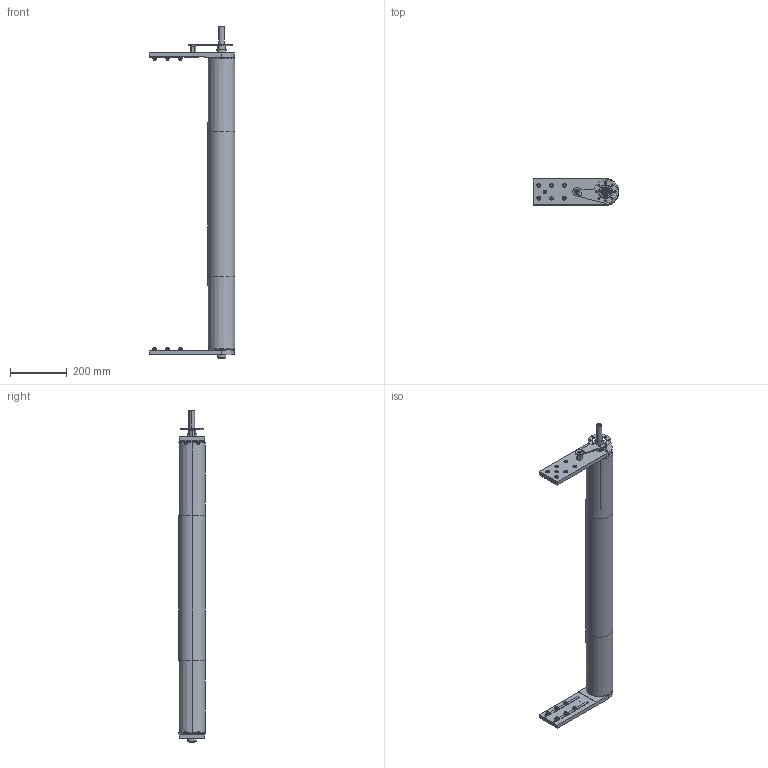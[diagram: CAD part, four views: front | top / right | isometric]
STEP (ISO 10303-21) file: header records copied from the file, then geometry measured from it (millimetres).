
FILE_DESCRIPTION (( 'STEP AP203' ), '1' );
FILE_NAME ('084.095.KD.44.1000.STEP', '2014-10-02T09:07:08', ( '' ), ( '' ), 'SwSTEP 2.0', 'SolidWorks 2012', '' );
FILE_SCHEMA (( 'CONFIG_CONTROL_DESIGN' ));
Length unit declared in the file: millimetre
Products named in the file (1): 084.095.KD.44.1000
Bounding box: 302.5 x 95 x 1168.5 mm (x, y, z)
Volume: 2755831.6 mm3; surface area: 1252871.7 mm2
Topology: 43 solids, 44 shells, 1008 faces, 2524 edges, 1644 vertices
Faces by surface type: plane 457, cylinder 339, torus 92, cone 63, bspline 48, sphere 9
Entity records: 31613 total; most frequent: CARTESIAN_POINT 6878, DIRECTION 5286, ORIENTED_EDGE 5004, EDGE_CURVE 2502, AXIS2_PLACEMENT_3D 2033, VERTEX_POINT 1633, LINE 1220, VECTOR 1220
